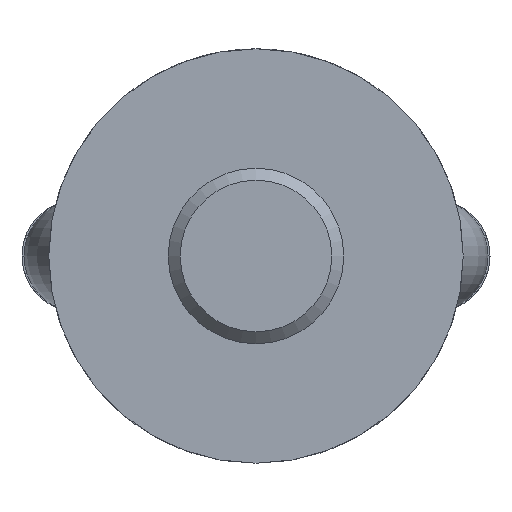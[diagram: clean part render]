
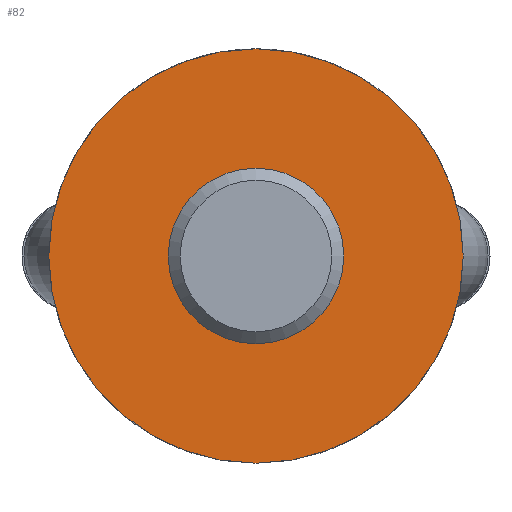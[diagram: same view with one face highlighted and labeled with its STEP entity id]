
A CAD part, front view. The second image highlights one B-rep face of the part: STEP entity #82.
In plain terms, the highlighted planar face has unit normal (0, -1, 0).
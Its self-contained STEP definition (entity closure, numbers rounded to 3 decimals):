
#82 = ADVANCED_FACE( '', ( #121, #122 ), #123, .F. );
#121 = FACE_BOUND( '', #189, .T. );
#122 = FACE_OUTER_BOUND( '', #190, .T. );
#123 = PLANE( '', #191 );
#189 = EDGE_LOOP( '', ( #306 ) );
#190 = EDGE_LOOP( '', ( #307 ) );
#191 = AXIS2_PLACEMENT_3D( '', #308, #309, #310 );
#306 = ORIENTED_EDGE( '', *, *, #458, .T. );
#307 = ORIENTED_EDGE( '', *, *, #459, .T. );
#308 = CARTESIAN_POINT( '', ( 42.5, 0., 0. ) );
#309 = DIRECTION( '', ( 0., 1., 0. ) );
#310 = DIRECTION( '', ( 0., 0., 1. ) );
#458 = EDGE_CURVE( '', #535, #535, #536, .T. );
#459 = EDGE_CURVE( '', #537, #537, #538, .T. );
#535 = VERTEX_POINT( '', #996 );
#536 = CIRCLE( '', #997, 18. );
#537 = VERTEX_POINT( '', #998 );
#538 = CIRCLE( '', #999, 42.5 );
#996 = CARTESIAN_POINT( '', ( 0., 0., 18. ) );
#997 = AXIS2_PLACEMENT_3D( '', #1056, #1057, #1058 );
#998 = CARTESIAN_POINT( '', ( 0., 0., -42.5 ) );
#999 = AXIS2_PLACEMENT_3D( '', #1059, #1060, #1061 );
#1056 = CARTESIAN_POINT( '', ( 0., 0., 0. ) );
#1057 = DIRECTION( '', ( 0., 1., 0. ) );
#1058 = DIRECTION( '', ( 0., 0., 1. ) );
#1059 = CARTESIAN_POINT( '', ( 0., 0., 0. ) );
#1060 = DIRECTION( '', ( 0., -1., 0. ) );
#1061 = DIRECTION( '', ( 0., 0., -1. ) );
